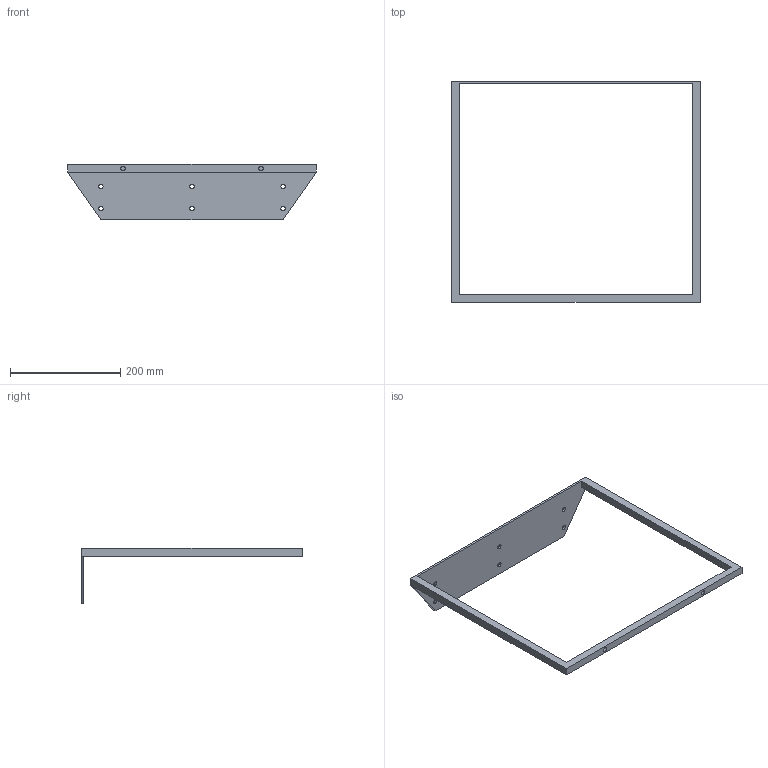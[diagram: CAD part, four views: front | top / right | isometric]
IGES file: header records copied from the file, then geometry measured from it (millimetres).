
Start section: SolidWorks IGES file using NURBS representation for surfaces
Global section: file name: G:\VICCARBE\PRODUCTOS\20-DO IT\04-MODELADOS (PLANOS)\SOLIDWORKS\Contenedores\IGES\VICCARBE_DOL40.IGS; native system: SolidWorks 2009; preprocessor: SolidWorks 2009; author: RUBEN; date: 111102.124031; units: millimetre
Bounding box: 450 x 400 x 100 mm (x, y, z)
Surface area: 151845.5 mm2 (no closed solid volume)
Topology: 0 solids, 0 shells, 31 faces, 644 edges, 644 vertices
Faces by surface type: bspline 31
